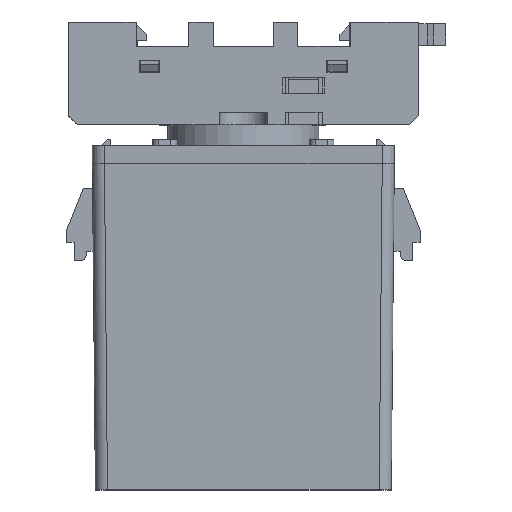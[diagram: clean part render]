
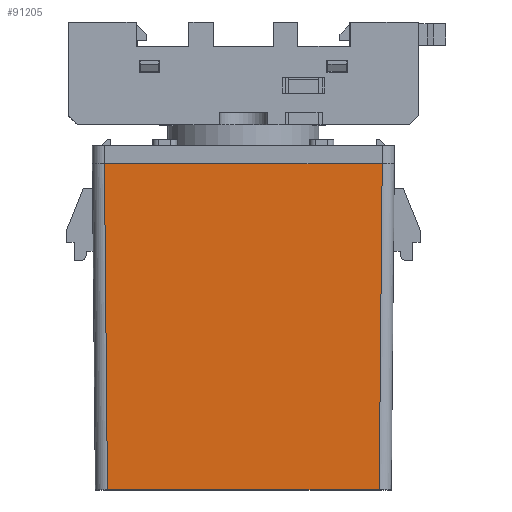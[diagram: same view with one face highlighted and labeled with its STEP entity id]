
A CAD part, left-side view. The second image highlights one B-rep face of the part: STEP entity #91205.
In plain terms, the highlighted planar face has unit normal (-1, 0, -0.009).
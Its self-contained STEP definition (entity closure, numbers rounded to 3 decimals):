
#91140=CARTESIAN_POINT('',(-18.,23.,0.0));
#91141=VERTEX_POINT('',#91140);
#91157=CARTESIAN_POINT('',(-17.5,22.5,-54.));
#91158=VERTEX_POINT('',#91157);
#91166=CARTESIAN_POINT('',(-17.5,22.5,-54.));
#91167=DIRECTION('',(-0.009,0.009,1.));
#91168=VECTOR('',#91167,54.005);
#91169=LINE('',#91166,#91168);
#91170=EDGE_CURVE('',#91158,#91141,#91169,.T.);
#91175=CARTESIAN_POINT('',(-17.5,-24.5,-54.));
#91176=DIRECTION('',(1.,0.,0.009));
#91177=DIRECTION('',(0.009,0.0,-1.));
#91178=AXIS2_PLACEMENT_3D('',#91175,#91176,#91177);
#91179=PLANE('',#91178);
#91180=ORIENTED_EDGE('',*,*,#91170,.F.);
#91181=CARTESIAN_POINT('',(-17.5,-22.5,-54.));
#91182=VERTEX_POINT('',#91181);
#91183=CARTESIAN_POINT('',(-17.5,-22.5,-54.));
#91184=DIRECTION('',(0.0,1.0,0.0));
#91185=VECTOR('',#91184,45.);
#91186=LINE('',#91183,#91185);
#91187=EDGE_CURVE('',#91182,#91158,#91186,.T.);
#91188=ORIENTED_EDGE('',*,*,#91187,.F.);
#91189=CARTESIAN_POINT('',(-18.,-23.,0.));
#91190=VERTEX_POINT('',#91189);
#91191=CARTESIAN_POINT('',(-18.,-23.,0.));
#91192=DIRECTION('',(0.009,0.009,-1.));
#91193=VECTOR('',#91192,54.005);
#91194=LINE('',#91191,#91193);
#91195=EDGE_CURVE('',#91190,#91182,#91194,.T.);
#91196=ORIENTED_EDGE('',*,*,#91195,.F.);
#91197=CARTESIAN_POINT('',(-18.,23.,0.0));
#91198=DIRECTION('',(0.0,-1.0,0.0));
#91199=VECTOR('',#91198,46.);
#91200=LINE('',#91197,#91199);
#91201=EDGE_CURVE('',#91141,#91190,#91200,.T.);
#91202=ORIENTED_EDGE('',*,*,#91201,.F.);
#91203=EDGE_LOOP('',(#91180,#91188,#91196,#91202));
#91204=FACE_OUTER_BOUND('',#91203,.T.);
#91205=ADVANCED_FACE('',(#91204),#91179,.F.);
